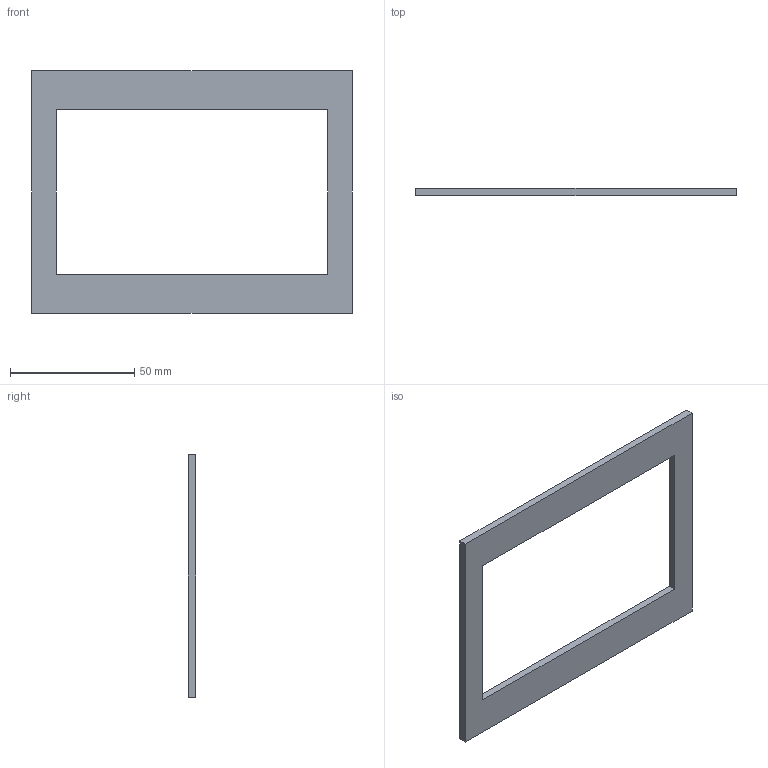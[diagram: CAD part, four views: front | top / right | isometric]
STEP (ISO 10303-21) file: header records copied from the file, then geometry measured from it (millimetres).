
FILE_DESCRIPTION(('Open CASCADE Model'),'2;1');
FILE_NAME('Open CASCADE Shape Model','2026-11-24T19:57:39',('Author'),( 'Open CASCADE'),'Open CASCADE STEP processor 7.8','Open CASCADE 7.8' ,'Unknown');
FILE_SCHEMA(('AUTOMOTIVE_DESIGN { 1 0 10303 214 1 1 1 1 }'));
Length unit declared in the file: millimetre
Products named in the file (1): Open CASCADE STEP translator 7.8 87
Bounding box: 129 x 3 x 97.48 mm (x, y, z)
Volume: 16142.8 mm3; surface area: 13170.7 mm2
Topology: 1 solids, 1 shells, 10 faces, 24 edges, 16 vertices
Faces by surface type: plane 10
Entity records: 614 total; most frequent: CARTESIAN_POINT 99, DIRECTION 94, LINE 72, VECTOR 72, ORIENTED_EDGE 48, PCURVE 48, DEFINITIONAL_REPRESENTATION 48, EDGE_CURVE 24
